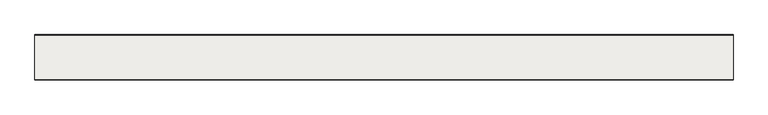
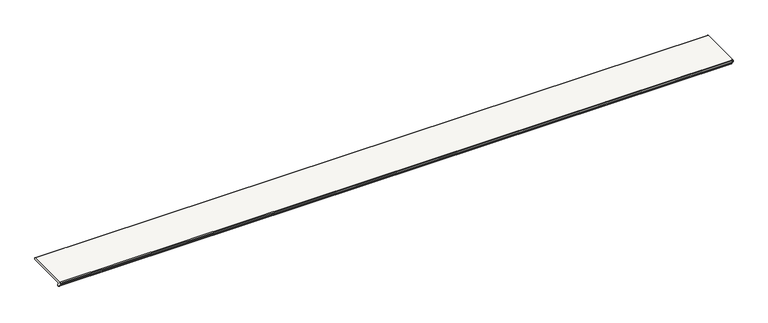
"""IFC4 building model written with IfcOpenShell, lengths in millimetres: slab geometry, ROSA GRES_J62 : Pieza J62_Tao_Beige_Anti-Slip."""

from ifc_helpers import new_model, si_unit, frame, origin, place, context, project, spatial, polyline, circle_curve, source, transform, mapped, element, save
from ifc_brep_helpers import plane_surface, cylinder_surface, revolved_surface, advanced_brep


def slab_2980076c(model_context):
    return source(origin(), model_context, "Body", "AdvancedBrep", [
        advanced_brep(
        [(4894.7742864, 317.0, 2.5), (4894.7742864, 317.0, 10.0774941), (4894.7742864, 314.2818333, 12.7946269), (4894.7742864, 3.9876034, 12.7946269), (4894.7742864, 0.0, 8.2984975), (4894.7742864, 0.0, -0.2793766), (4894.7742864, 0.7963935, -2.84429), (4894.7742864, 14.760096, -23.1626329), (4894.7742864, 17.666394, -25.1262743), (4894.7742864, 18.5721049, -25.1262743), (4894.7742864, 19.473321, -26.1221068), (4894.7742864, 20.3835268, -27.1188383), (4894.7742864, 26.7240304, -27.1188383), (4894.7742864, 29.4411632, -24.4017055), (4894.7742864, 29.4411632, -18.2354274), (4894.7742864, 24.5931401, -10.7276172), (4894.7742864, 29.6363327, 0.0), (4894.7742864, 314.5, 0.0), (0.0, 317.0, 2.5), (0.0, 314.5, 0.0), (0.0, 29.6363327, 0.0), (0.0, 24.5931401, -10.7276172), (0.0, 29.4411632, -18.2354274), (0.0, 29.4411632, -24.4017055), (0.0, 26.7240304, -27.1188383), (0.0, 20.3835268, -27.1188383), (0.0, 19.4823107, -26.1230058), (0.0, 18.5721049, -25.1262743), (0.0, 17.666394, -25.1262743), (0.0, 14.760096, -23.1626329), (0.0, 0.7963935, -2.84429), (0.0, 0.0, -0.2793766), (0.0, 0.0, 8.2984975), (0.0, 3.9876034, 12.7946269), (0.0, 314.2818333, 12.7946269), (0.0, 316.9989661, 10.0774941)],
        [
            (0, 1),
            (1, 2, circle_curve(frame((4894.7742864, 314.2818333, 10.0774941), z_axis=(1.0, 0.0, 0.0), x_axis=(0.0, 0.0, 1.0)), 2.7171328)),
            (2, 3),
            (3, 4, circle_curve(frame((4894.7742864, 4.5285547, 8.2984975), z_axis=(1.0, 0.0, 0.0), x_axis=(0.0, -0.9928398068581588, -0.11945341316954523)), 4.5285547)),
            (4, 5),
            (5, 6, circle_curve(frame((4894.7742864, 4.5285547, -0.2793766), z_axis=(1.0, 0.0, 0.0), x_axis=(0.0, 0.0, -1.0)), 4.5285547)),
            (6, 7),
            (7, 8, circle_curve(frame((4894.7742864, 18.9818017, -20.0468365), z_axis=(1.0, 0.0, 0.0), x_axis=(0.0, 0.5938246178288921, -0.804594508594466)), 5.2469978)),
            (8, 9),
            (9, 10, circle_curve(frame((4894.7742864, 18.5721049, -26.0319852), z_axis=(-1.0, 0.0, 0.0), x_axis=(0.0, 1.0, 0.0)), 0.9057109)),
            (10, 11, circle_curve(frame((4894.7742864, 20.3835268, -26.2131274), z_axis=(1.0, 0.0, 0.0), x_axis=(0.0, -0.0995037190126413, -0.9950371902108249)), 0.9057109)),
            (11, 12),
            (12, 13, circle_curve(frame((4894.7742864, 26.7240304, -24.4017055), z_axis=(1.0, 0.0, 0.0), x_axis=(0.0, 1.0, 0.0)), 2.7171328)),
            (13, 14),
            (14, 15),
            (15, 16, circle_curve(frame((4894.7742864, 30.1604402, -6.7956336), z_axis=(-1.0, 0.0, 0.0), x_axis=(0.0, -0.5768912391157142, 0.8168209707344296)), 6.8158144)),
            (16, 17),
            (17, 0, circle_curve(frame((4894.7742864, 314.5, 2.5), z_axis=(1.0, 0.0, 0.0), x_axis=(0.0, 1.0, 0.0)), 2.5)),
            (18, 19, circle_curve(frame((0.0, 314.5, 2.5), z_axis=(-1.0, 0.0, 0.0), x_axis=(0.0, 1.0, 0.0)), 2.5)),
            (19, 20),
            (20, 21, circle_curve(frame((0.0, 30.1604402, -6.7956336), z_axis=(1.0, 0.0, 0.0), x_axis=(0.0, -0.5768912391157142, 0.8168209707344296)), 6.8158144)),
            (21, 22),
            (22, 23),
            (23, 24, circle_curve(frame((0.0, 26.7240304, -24.4017055), z_axis=(-1.0, 0.0, 0.0), x_axis=(0.0, 1.0, 0.0)), 2.7171328)),
            (24, 25),
            (25, 26, circle_curve(frame((0.0, 20.3835268, -26.2131274), z_axis=(-1.0, 0.0, 0.0), x_axis=(0.0, -0.0995037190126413, -0.9950371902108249)), 0.9057109)),
            (26, 27, circle_curve(frame((0.0, 18.5721049, -26.0319852), z_axis=(1.0, 0.0, 0.0), x_axis=(0.0, 1.0, 0.0)), 0.9057109)),
            (27, 28),
            (28, 29, circle_curve(frame((0.0, 18.9818017, -20.0468365), z_axis=(-1.0, 0.0, 0.0), x_axis=(0.0, 0.5938246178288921, -0.804594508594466)), 5.2469978)),
            (29, 30),
            (30, 31, circle_curve(frame((0.0, 4.5285547, -0.2793766), z_axis=(-1.0, 0.0, 0.0), x_axis=(0.0, 0.0, -1.0)), 4.5285547)),
            (31, 32),
            (32, 33, circle_curve(frame((0.0, 4.5285547, 8.2984975), z_axis=(-1.0, 0.0, 0.0), x_axis=(0.0, -0.9928398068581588, -0.11945341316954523)), 4.5285547)),
            (33, 34),
            (34, 35, circle_curve(frame((0.0, 314.2818333, 10.0774941), z_axis=(-1.0, 0.0, 0.0), x_axis=(0.0, 0.0, 1.0)), 2.7171328)),
            (35, 18),
            (16, 20),
            (19, 17),
            (18, 0),
            (35, 1),
            (34, 2),
            (33, 3),
            (32, 4),
            (31, 5),
            (30, 6),
            (29, 7),
            (28, 8),
            (27, 9),
            (26, 10),
            (25, 11),
            (24, 12),
            (23, 13),
            (22, 14),
            (21, 15),
        ],
        [
            plane_surface(frame((4894.7742864, 317.0, 10.0774941), z_axis=(1.0, 0.0, 0.0), x_axis=(0.0, 0.0, 1.0))),
            plane_surface(frame((0.0, 317.0, 10.0774941), z_axis=(-1.0, 0.0, 0.0), x_axis=(0.0, 0.0, -1.0))),
            plane_surface(frame((4894.7742864, 172.0681664, 0.0), z_axis=(0.0, 0.0, -1.0), x_axis=(0.0, 1.0, 0.0))),
            cylinder_surface(frame((4894.7742864, 314.5, 2.5), z_axis=(-1.0, 0.0, 0.0), x_axis=(0.0, 1.0, 0.0)), 2.5),
            plane_surface(frame((4894.7742864, 317.0, 6.288747), z_axis=(0.0, 1.0, 0.0), x_axis=(0.0, 0.0, 1.0))),
            cylinder_surface(frame((4894.7742864, 314.2818333, 10.0774941), z_axis=(-1.0, 0.0, 0.0), x_axis=(0.0, 0.0, 1.0)), 2.7171328),
            plane_surface(frame((4894.7742864, 159.1347183, 12.7946269), z_axis=(0.0, 0.0, 1.0), x_axis=(0.0, -1.0, 0.0))),
            cylinder_surface(frame((4894.7742864, 4.5285547, 8.2984975), z_axis=(-1.0, 0.0, 0.0), x_axis=(0.0, -0.9928398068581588, -0.11945341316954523)), 4.5285547),
            plane_surface(frame((4894.7742864, 0.0, 4.0095604), z_axis=(0.0, -1.0, 0.0), x_axis=(0.0, 0.0, -1.0))),
            cylinder_surface(frame((4894.7742864, 4.5285547, -0.2793766), z_axis=(-1.0, 0.0, 0.0), x_axis=(0.0, 0.0, -1.0)), 4.5285547),
            plane_surface(frame((4894.7742864, 7.7782448, -13.0034614), z_axis=(0.0, -0.8241395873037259, -0.5663867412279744), x_axis=(0.0, 0.5663867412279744, -0.8241395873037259))),
            cylinder_surface(frame((4894.7742864, 18.9818017, -20.0468365), z_axis=(-1.0, 0.0, 0.0), x_axis=(0.0, 0.5938246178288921, -0.804594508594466)), 5.2469978),
            plane_surface(frame((4894.7742864, 18.1192494, -25.1262743), z_axis=(0.0, -5.2830532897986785e-11, -1.0), x_axis=(0.0, 1.0, -5.2830532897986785e-11))),
            revolved_surface(polyline([(0.0, 19.4778158, -26.0319852), (4894.7742864, 19.4778158, -26.0319852)]), (4894.7742864, 18.5721049, -26.0319852), (-1.0, 0.0, 0.0)),
            cylinder_surface(frame((4894.7742864, 20.3835268, -26.2131274), z_axis=(-1.0, 0.0, 0.0), x_axis=(0.0, -0.0995037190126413, -0.9950371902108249)), 0.9057109),
            plane_surface(frame((4894.7742864, 23.5537786, -27.1188383), z_axis=(0.0, -8.0542785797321e-12, -1.0), x_axis=(0.0, 1.0, -8.0542785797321e-12))),
            cylinder_surface(frame((4894.7742864, 26.7240304, -24.4017055), z_axis=(-1.0, 0.0, 0.0), x_axis=(0.0, 1.0, 0.0)), 2.7171328),
            plane_surface(frame((4894.7742864, 29.4411632, -21.3185665), z_axis=(0.0, 1.0, 0.0), x_axis=(0.0, 0.0, 1.0))),
            plane_surface(frame((4894.7742864, 27.0171517, -14.4815223), z_axis=(0.0, 0.8400786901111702, 0.5424645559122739), x_axis=(0.0, -0.5424645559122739, 0.8400786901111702))),
            revolved_surface(polyline([(0.0, 26.228456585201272, -1.2283334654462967), (4894.7742864, 26.228456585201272, -1.2283334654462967)]), (4894.7742864, 30.1604402, -6.7956336), (-1.0, 0.0, 0.0)),
        ],
        [
            (0, [[1, 2, 3, 4, 5, 6, 7, 8, 9, 10, 11, 12, 13, 14, 15, 16, 17, 18]]),
            (1, [[19, 20, 21, 22, 23, 24, 25, 26, 27, 28, 29, 30, 31, 32, 33, 34, 35, 36]]),
            (2, [[-17, 37, -20, 38]]),
            (3, [[-18, -38, -19, 39]]),
            (4, [[-1, -39, -36, 40]]),
            (5, [[-2, -40, -35, 41]]),
            (6, [[-3, -41, -34, 42]]),
            (7, [[-4, -42, -33, 43]]),
            (8, [[-5, -43, -32, 44]]),
            (9, [[-6, -44, -31, 45]]),
            (10, [[-7, -45, -30, 46]]),
            (11, [[-8, -46, -29, 47]]),
            (12, [[-9, -47, -28, 48]]),
            (13, [[-10, -48, -27, 49]]),
            (14, [[-11, -49, -26, 50]]),
            (15, [[-12, -50, -25, 51]]),
            (16, [[-13, -51, -24, 52]]),
            (17, [[-14, -52, -23, 53]]),
            (18, [[-15, -53, -22, 54]]),
            (19, [[-16, -54, -21, -37]]),
        ],
    ),
    ])


if __name__ == "__main__":
    model = new_model("IFC4")
    model_context = context("Model", 3, world=origin())
    ifc_project = project(units=[si_unit("LENGTHUNIT", "METRE", prefix="MILLI")], contexts=[model_context])
    site = spatial("IfcSite", under=ifc_project)
    building = spatial("IfcBuilding", under=site)
    placement = place(None, origin())
    slab_shape = slab_2980076c(model_context)
    element("IfcSlab", 1, ObjectType="ROSA GRES_J62 : Pieza J62_Tao_Beige_Anti-Slip", at=placement, inside=building, context=model_context, shape_type="MappedRepresentation", body=[
        mapped(slab_shape, transform((0.0, 0.0, 0.0), x_axis=(1.0, 0.0, 0.0), y_axis=(0.0, 1.0, 0.0), z_axis=(0.0, 0.0, 1.0))),
    ])
    save(model, "model.ifc")
